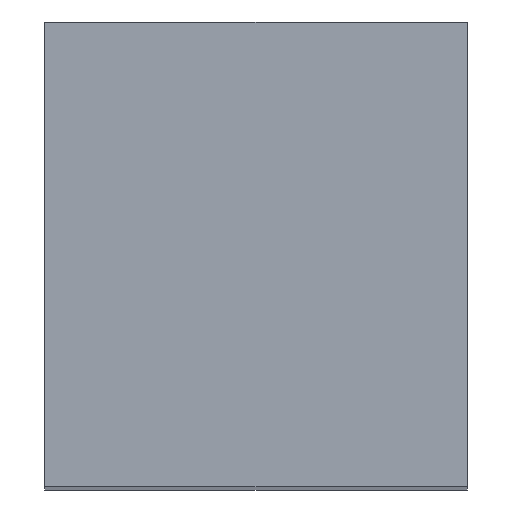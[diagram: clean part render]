
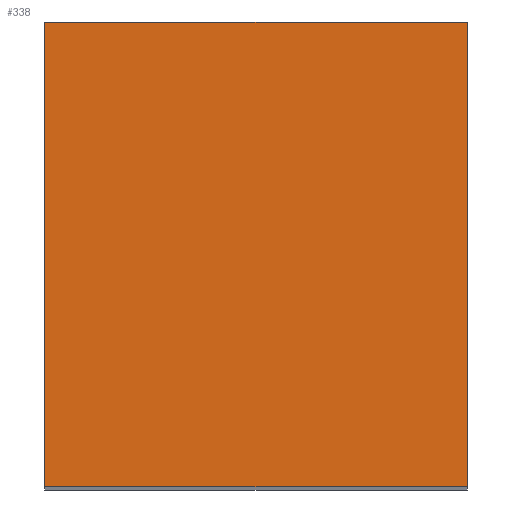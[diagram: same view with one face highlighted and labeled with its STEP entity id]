
A CAD part, top view. The second image highlights one B-rep face of the part: STEP entity #338.
In plain terms, the highlighted planar face has unit normal (0, 0, 1).
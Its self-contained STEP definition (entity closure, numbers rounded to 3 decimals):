
#24 = VERTEX_POINT('',#25);
#25 = CARTESIAN_POINT('',(10.9,1.45,27.54));
#32 = PLANE('',#33);
#33 = AXIS2_PLACEMENT_3D('',#34,#35,#36);
#34 = CARTESIAN_POINT('',(10.9,1.45,10.84));
#35 = DIRECTION('',(1.,0.,-0.));
#36 = DIRECTION('',(0.,0.,1.));
#44 = PLANE('',#45);
#45 = AXIS2_PLACEMENT_3D('',#46,#47,#48);
#46 = CARTESIAN_POINT('',(10.9,1.45,10.84));
#47 = DIRECTION('',(-0.,1.,0.));
#48 = DIRECTION('',(0.,0.,1.));
#85 = VERTEX_POINT('',#86);
#86 = CARTESIAN_POINT('',(10.9,5.35,27.54
    ));
#100 = PLANE('',#101);
#101 = AXIS2_PLACEMENT_3D('',#102,#103,#104);
#102 = CARTESIAN_POINT('',(10.9,5.35,
    10.84));
#103 = DIRECTION('',(-0.,1.,0.));
#104 = DIRECTION('',(0.,0.,1.));
#112 = EDGE_CURVE('',#24,#85,#113,.T.);
#113 = SURFACE_CURVE('',#114,(#118,#125),.PCURVE_S1.);
#114 = LINE('',#115,#116);
#115 = CARTESIAN_POINT('',(10.9,1.45,27.54));
#116 = VECTOR('',#117,1.);
#117 = DIRECTION('',(-0.,1.,0.));
#118 = PCURVE('',#32,#119);
#119 = DEFINITIONAL_REPRESENTATION('',(#120),#124);
#120 = LINE('',#121,#122);
#121 = CARTESIAN_POINT('',(16.7,0.));
#122 = VECTOR('',#123,1.);
#123 = DIRECTION('',(0.,-1.));
#124 = ( GEOMETRIC_REPRESENTATION_CONTEXT(2) 
PARAMETRIC_REPRESENTATION_CONTEXT() REPRESENTATION_CONTEXT('2D SPACE',''
  ) );
#125 = PCURVE('',#126,#131);
#126 = PLANE('',#127);
#127 = AXIS2_PLACEMENT_3D('',#128,#129,#130);
#128 = CARTESIAN_POINT('',(10.9,1.45,27.54));
#129 = DIRECTION('',(0.,0.,1.));
#130 = DIRECTION('',(1.,0.,-0.));
#131 = DEFINITIONAL_REPRESENTATION('',(#132),#136);
#132 = LINE('',#133,#134);
#133 = CARTESIAN_POINT('',(0.,0.));
#134 = VECTOR('',#135,1.);
#135 = DIRECTION('',(0.,1.));
#136 = ( GEOMETRIC_REPRESENTATION_CONTEXT(2) 
PARAMETRIC_REPRESENTATION_CONTEXT() REPRESENTATION_CONTEXT('2D SPACE',''
  ) );
#144 = VERTEX_POINT('',#145);
#145 = CARTESIAN_POINT('',(14.45,1.45,27.54));
#152 = PLANE('',#153);
#153 = AXIS2_PLACEMENT_3D('',#154,#155,#156);
#154 = CARTESIAN_POINT('',(14.45,1.45,10.84));
#155 = DIRECTION('',(1.,0.,-0.));
#156 = DIRECTION('',(0.,0.,1.));
#195 = VERTEX_POINT('',#196);
#196 = CARTESIAN_POINT('',(14.45,5.35,27.54));
#217 = EDGE_CURVE('',#144,#195,#218,.T.);
#218 = SURFACE_CURVE('',#219,(#223,#230),.PCURVE_S1.);
#219 = LINE('',#220,#221);
#220 = CARTESIAN_POINT('',(14.45,1.45,27.54));
#221 = VECTOR('',#222,1.);
#222 = DIRECTION('',(-0.,1.,0.));
#223 = PCURVE('',#152,#224);
#224 = DEFINITIONAL_REPRESENTATION('',(#225),#229);
#225 = LINE('',#226,#227);
#226 = CARTESIAN_POINT('',(16.7,0.));
#227 = VECTOR('',#228,1.);
#228 = DIRECTION('',(0.,-1.));
#229 = ( GEOMETRIC_REPRESENTATION_CONTEXT(2) 
PARAMETRIC_REPRESENTATION_CONTEXT() REPRESENTATION_CONTEXT('2D SPACE',''
  ) );
#230 = PCURVE('',#126,#231);
#231 = DEFINITIONAL_REPRESENTATION('',(#232),#236);
#232 = LINE('',#233,#234);
#233 = CARTESIAN_POINT('',(3.55,0.));
#234 = VECTOR('',#235,1.);
#235 = DIRECTION('',(0.,1.));
#236 = ( GEOMETRIC_REPRESENTATION_CONTEXT(2) 
PARAMETRIC_REPRESENTATION_CONTEXT() REPRESENTATION_CONTEXT('2D SPACE',''
  ) );
#263 = EDGE_CURVE('',#24,#144,#264,.T.);
#264 = SURFACE_CURVE('',#265,(#269,#276),.PCURVE_S1.);
#265 = LINE('',#266,#267);
#266 = CARTESIAN_POINT('',(10.9,1.45,27.54));
#267 = VECTOR('',#268,1.);
#268 = DIRECTION('',(1.,0.,-0.));
#269 = PCURVE('',#44,#270);
#270 = DEFINITIONAL_REPRESENTATION('',(#271),#275);
#271 = LINE('',#272,#273);
#272 = CARTESIAN_POINT('',(16.7,0.));
#273 = VECTOR('',#274,1.);
#274 = DIRECTION('',(0.,1.));
#275 = ( GEOMETRIC_REPRESENTATION_CONTEXT(2) 
PARAMETRIC_REPRESENTATION_CONTEXT() REPRESENTATION_CONTEXT('2D SPACE',''
  ) );
#276 = PCURVE('',#126,#277);
#277 = DEFINITIONAL_REPRESENTATION('',(#278),#282);
#278 = LINE('',#279,#280);
#279 = CARTESIAN_POINT('',(0.,0.));
#280 = VECTOR('',#281,1.);
#281 = DIRECTION('',(1.,0.));
#282 = ( GEOMETRIC_REPRESENTATION_CONTEXT(2) 
PARAMETRIC_REPRESENTATION_CONTEXT() REPRESENTATION_CONTEXT('2D SPACE',''
  ) );
#310 = EDGE_CURVE('',#85,#195,#311,.T.);
#311 = SURFACE_CURVE('',#312,(#316,#323),.PCURVE_S1.);
#312 = LINE('',#313,#314);
#313 = CARTESIAN_POINT('',(10.9,5.35,
    27.54));
#314 = VECTOR('',#315,1.);
#315 = DIRECTION('',(1.,0.,-0.));
#316 = PCURVE('',#100,#317);
#317 = DEFINITIONAL_REPRESENTATION('',(#318),#322);
#318 = LINE('',#319,#320);
#319 = CARTESIAN_POINT('',(16.7,0.));
#320 = VECTOR('',#321,1.);
#321 = DIRECTION('',(0.,1.));
#322 = ( GEOMETRIC_REPRESENTATION_CONTEXT(2) 
PARAMETRIC_REPRESENTATION_CONTEXT() REPRESENTATION_CONTEXT('2D SPACE',''
  ) );
#323 = PCURVE('',#126,#324);
#324 = DEFINITIONAL_REPRESENTATION('',(#325),#329);
#325 = LINE('',#326,#327);
#326 = CARTESIAN_POINT('',(0.,3.9));
#327 = VECTOR('',#328,1.);
#328 = DIRECTION('',(1.,0.));
#329 = ( GEOMETRIC_REPRESENTATION_CONTEXT(2) 
PARAMETRIC_REPRESENTATION_CONTEXT() REPRESENTATION_CONTEXT('2D SPACE',''
  ) );
#338 = ADVANCED_FACE('',(#339),#126,.T.);
#339 = FACE_BOUND('',#340,.T.);
#340 = EDGE_LOOP('',(#341,#342,#343,#344));
#341 = ORIENTED_EDGE('',*,*,#112,.F.);
#342 = ORIENTED_EDGE('',*,*,#263,.T.);
#343 = ORIENTED_EDGE('',*,*,#217,.T.);
#344 = ORIENTED_EDGE('',*,*,#310,.F.);
